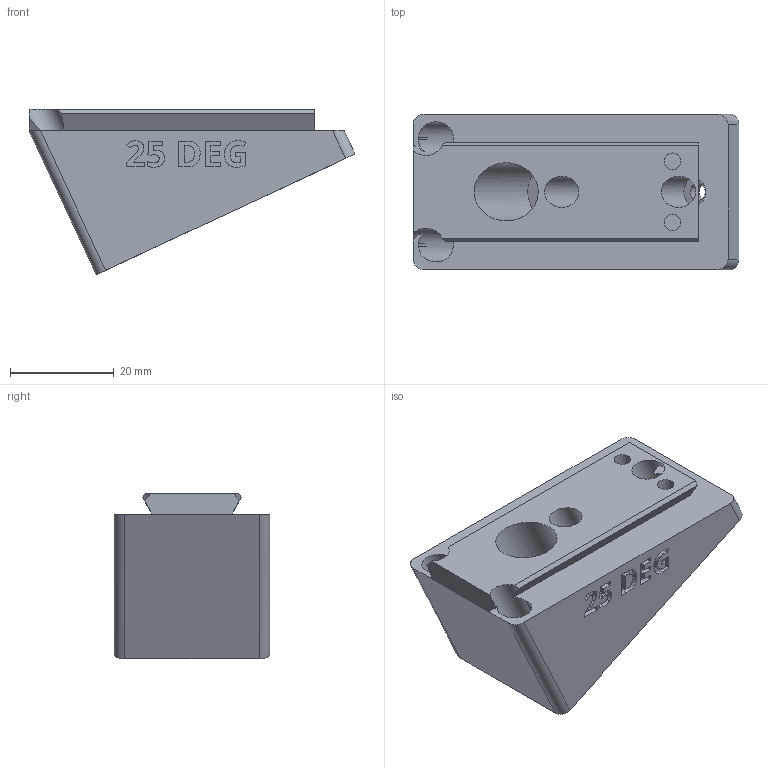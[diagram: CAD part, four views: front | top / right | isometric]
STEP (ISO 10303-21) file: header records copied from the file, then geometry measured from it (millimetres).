
FILE_DESCRIPTION(/* description */ ('STEP AP242 Edition 2','CAx-IF Rec.Pracs.---Representation and Presentation of Product Manufacturing Information (PMI)---4.0---2014-10-13','CAx-IF Rec.Pracs.---3D Tessellated Geometry---0.4---2014-09-14','2;1','CAx-IF Rec.Pracs.---User Defined Attributes---1.5---2016-08-15'),/* implementation_level */ '2;1');
FILE_NAME(/* name */ 'Camera Wedges - CAMERA MOUNTING WEDGE, POS, 25 DEG',/* time_stamp */ '2026-07-08T20:38:52Z',/* author */ (''),/* organization */ (''),/* preprocessor_version */ 'ST-DEVELOPER v20',/* originating_system */ 'ONSHAPE BY PTC INC, 1.217',/* authorisation */ ' ');
FILE_SCHEMA (('AP242_MANAGED_MODEL_BASED_3D_ENGINEERING_MIM_LF { 1 0 10303 442 3 1 4 }'));
Length unit declared in the file: metre
Products named in the file (1): CAMERA MOUNTING WEDGE, POS, 25 DEG
Bounding box: 62.8 x 30 x 31.88 mm (x, y, z)
Volume: 27446.1 mm3; surface area: 10000.5 mm2
Topology: 1 solids, 1 shells, 261 faces, 727 edges, 485 vertices
Faces by surface type: plane 141, cylinder 62, bspline 58
Full cylindrical faces by diameter (mm): 3.2 x4, 6 x2, 6.4 x1, 11.2 x1
Entity records: 8538 total; most frequent: CARTESIAN_POINT 2098, ORIENTED_EDGE 1432, DIRECTION 1146, EDGE_CURVE 716, VERTEX_POINT 482, LINE 462, VECTOR 462, AXIS2_PLACEMENT_3D 342
